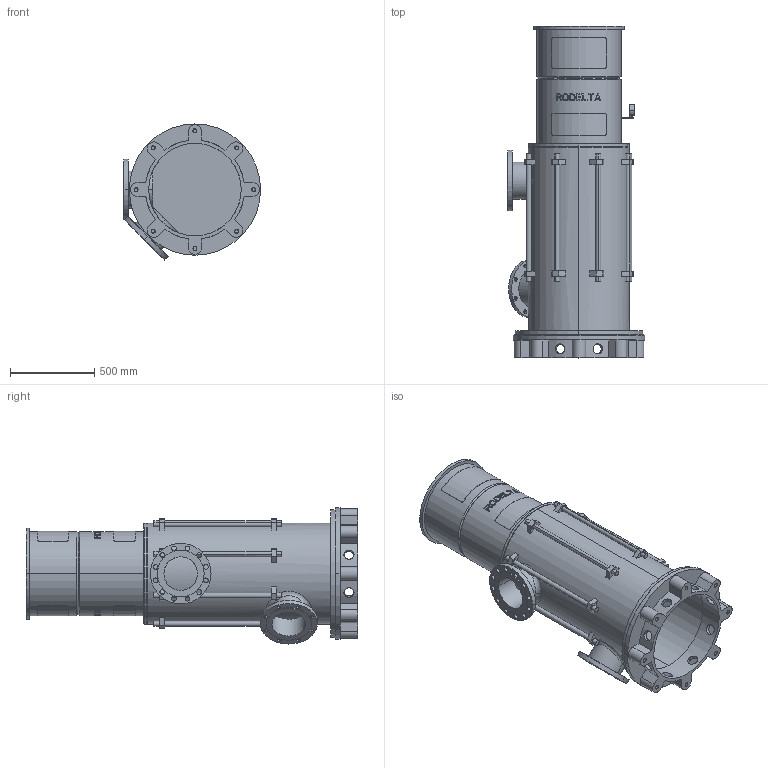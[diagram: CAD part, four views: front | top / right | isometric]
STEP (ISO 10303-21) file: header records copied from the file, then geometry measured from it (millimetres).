
FILE_DESCRIPTION((''),'2;1');
FILE_NAME('LS8_2TR_0GR_PN25','2025-10-24T13:16:17',('Lyritlocal'),(''),'CREO PARAMETRIC BY PTC INC, 2022014','CREO PARAMETRIC BY PTC INC, 2022014','');
FILE_SCHEMA(('CONFIG_CONTROL_DESIGN'));
Length unit declared in the file: millimetre
Products named in the file (1): LS8_2TR_0GR_PN25
Bounding box: 815 x 1972 x 808.61 mm (x, y, z)
Volume: 71197586.9 mm3; surface area: 9782473.1 mm2
Topology: 3 solids, 11 shells, 723 faces, 1878 edges, 1246 vertices
Faces by surface type: plane 440, cylinder 267, cone 12, bspline 4
Entity records: 23719 total; most frequent: CARTESIAN_POINT 6038, ORIENTED_EDGE 3724, DIRECTION 3488, EDGE_CURVE 1878, AXIS2_PLACEMENT_3D 1302, VERTEX_POINT 1246, EDGE_LOOP 888, VECTOR 884
